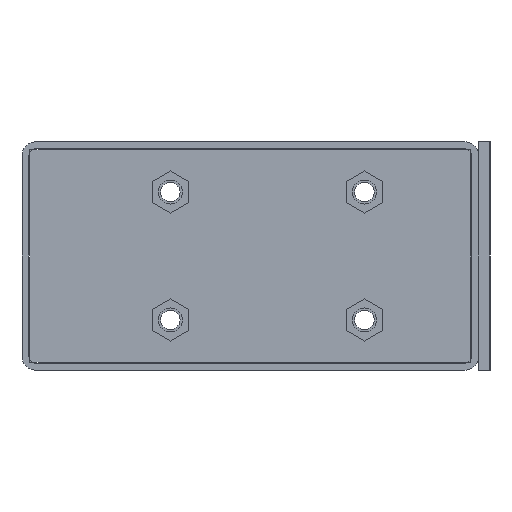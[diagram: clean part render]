
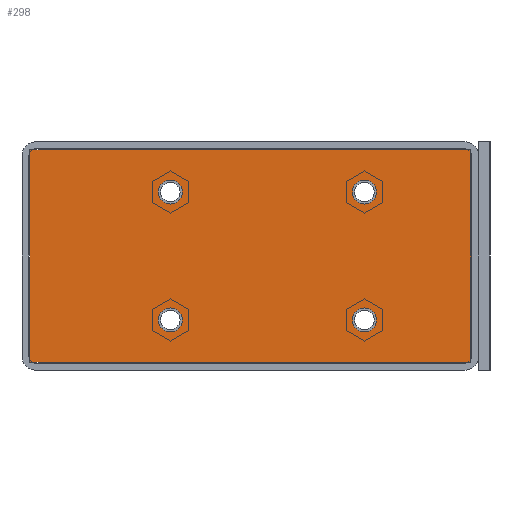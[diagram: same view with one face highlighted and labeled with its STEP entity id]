
A CAD part, left-side view. The second image highlights one B-rep face of the part: STEP entity #298.
In plain terms, the highlighted planar face has unit normal (-1, 0, 0).
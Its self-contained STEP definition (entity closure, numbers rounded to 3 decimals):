
#298=ADVANCED_FACE('',(#572,#573,#574,#575,#576),#404,.F.);
#404=PLANE('',#2840);
#572=FACE_BOUND('',#748,.T.);
#573=FACE_BOUND('',#749,.T.);
#574=FACE_BOUND('',#750,.T.);
#575=FACE_BOUND('',#751,.T.);
#576=FACE_BOUND('',#752,.T.);
#748=EDGE_LOOP('',(#1109,#1110,#1111,#1112));
#749=EDGE_LOOP('',(#1113));
#750=EDGE_LOOP('',(#1114));
#751=EDGE_LOOP('',(#1115));
#752=EDGE_LOOP('',(#1116));
#1109=ORIENTED_EDGE('',*,*,#1805,.F.);
#1110=ORIENTED_EDGE('',*,*,#1806,.F.);
#1111=ORIENTED_EDGE('',*,*,#1807,.F.);
#1112=ORIENTED_EDGE('',*,*,#1808,.F.);
#1113=ORIENTED_EDGE('',*,*,#1799,.T.);
#1114=ORIENTED_EDGE('',*,*,#1797,.T.);
#1115=ORIENTED_EDGE('',*,*,#1795,.T.);
#1116=ORIENTED_EDGE('',*,*,#1793,.T.);
#1545=VERTEX_POINT('',#3947);
#1547=VERTEX_POINT('',#3952);
#1549=VERTEX_POINT('',#3957);
#1551=VERTEX_POINT('',#3962);
#1557=VERTEX_POINT('',#3976);
#1558=VERTEX_POINT('',#3977);
#1559=VERTEX_POINT('',#3979);
#1560=VERTEX_POINT('',#3981);
#1793=EDGE_CURVE('',#1545,#1545,#2664,.T.);
#1795=EDGE_CURVE('',#1547,#1547,#2666,.T.);
#1797=EDGE_CURVE('',#1549,#1549,#2668,.T.);
#1799=EDGE_CURVE('',#1551,#1551,#2670,.T.);
#1805=EDGE_CURVE('',#1557,#1558,#2045,.T.);
#1806=EDGE_CURVE('',#1559,#1557,#2046,.T.);
#1807=EDGE_CURVE('',#1560,#1559,#2047,.T.);
#1808=EDGE_CURVE('',#1558,#1560,#2048,.T.);
#2045=LINE('',#3975,#2269);
#2046=LINE('',#3978,#2270);
#2047=LINE('',#3980,#2271);
#2048=LINE('',#3982,#2272);
#2269=VECTOR('',#3309,1.);
#2270=VECTOR('',#3310,1.);
#2271=VECTOR('',#3311,1.);
#2272=VECTOR('',#3312,1.);
#2664=CIRCLE('',#2827,5.25);
#2666=CIRCLE('',#2830,5.25);
#2668=CIRCLE('',#2833,5.25);
#2670=CIRCLE('',#2836,5.25);
#2827=AXIS2_PLACEMENT_3D('',#3946,#3279,#3280);
#2830=AXIS2_PLACEMENT_3D('',#3951,#3285,#3286);
#2833=AXIS2_PLACEMENT_3D('',#3956,#3291,#3292);
#2836=AXIS2_PLACEMENT_3D('',#3961,#3297,#3298);
#2840=AXIS2_PLACEMENT_3D('',#3983,#3313,#3314);
#3279=DIRECTION('',(1.,0.,0.));
#3280=DIRECTION('',(0.,0.,-1.));
#3285=DIRECTION('',(1.,0.,0.));
#3286=DIRECTION('',(0.,0.,-1.));
#3291=DIRECTION('',(1.,0.,0.));
#3292=DIRECTION('',(0.,0.,-1.));
#3297=DIRECTION('',(1.,0.,0.));
#3298=DIRECTION('',(0.,0.,-1.));
#3309=DIRECTION('',(0.,0.,1.));
#3310=DIRECTION('',(0.,1.,0.));
#3311=DIRECTION('',(0.,0.,-1.));
#3312=DIRECTION('',(0.,-1.,0.));
#3313=DIRECTION('',(1.,0.,0.));
#3314=DIRECTION('',(0.,0.,-1.));
#3946=CARTESIAN_POINT('',(-1135.5,185.,-64.5));
#3947=CARTESIAN_POINT('',(-1135.5,185.,-69.75));
#3951=CARTESIAN_POINT('',(-1135.5,185.,-120.5));
#3952=CARTESIAN_POINT('',(-1135.5,185.,-125.75));
#3956=CARTESIAN_POINT('',(-1135.5,270.,-120.5));
#3957=CARTESIAN_POINT('',(-1135.5,270.,-125.75));
#3961=CARTESIAN_POINT('',(-1135.5,270.,-64.5));
#3962=CARTESIAN_POINT('',(-1135.5,270.,-69.75));
#3975=CARTESIAN_POINT('',(-1135.5,331.5,-136.5));
#3976=CARTESIAN_POINT('',(-1135.5,331.5,-139.));
#3977=CARTESIAN_POINT('',(-1135.5,331.5,-46.));
#3978=CARTESIAN_POINT('',(-1135.5,141.,-139.));
#3979=CARTESIAN_POINT('',(-1135.5,138.5,-139.));
#3980=CARTESIAN_POINT('',(-1135.5,138.5,-136.5));
#3981=CARTESIAN_POINT('',(-1135.5,138.5,-46.));
#3982=CARTESIAN_POINT('',(-1135.5,141.,-46.));
#3983=CARTESIAN_POINT('',(-1135.5,141.,-136.5));
